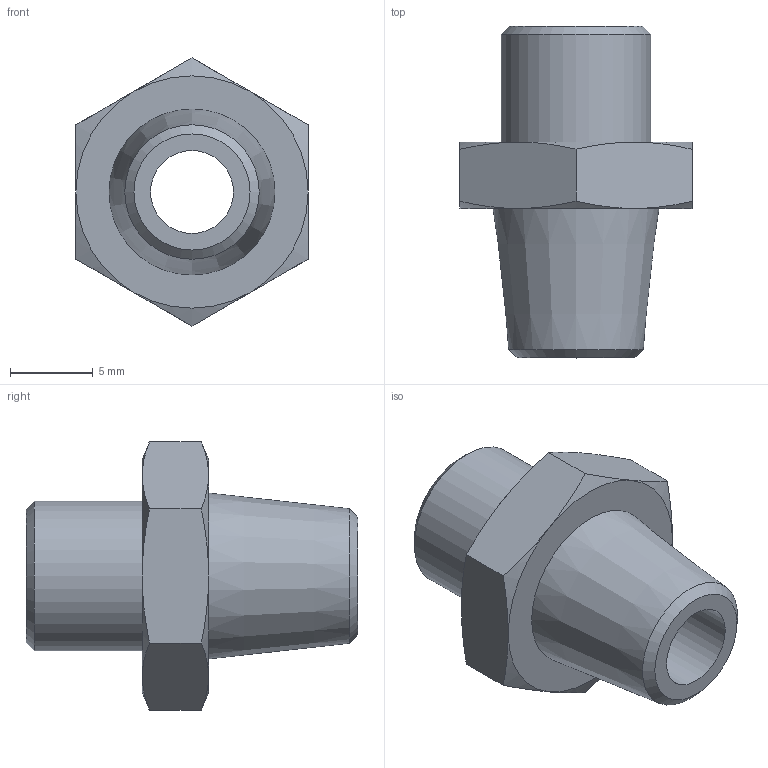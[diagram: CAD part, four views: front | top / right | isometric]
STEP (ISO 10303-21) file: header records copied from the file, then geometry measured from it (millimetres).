
FILE_DESCRIPTION(/* description */ (''),/* implementation_level */ '2;1');
FILE_NAME(/* name */ 'BXH81 B1N1 00.stp',/* time_stamp */ '2024-12-18T18:14:41+01:00',/* author */ ('freju'),/* organization */ (''),/* preprocessor_version */ 'ST-DEVELOPER v20',/* originating_system */ 'Autodesk Inventor 2025',/* authorisation */ '');
FILE_SCHEMA (('AUTOMOTIVE_DESIGN { 1 0 10303 214 3 1 1 }'));
Length unit declared in the file: millimetre
Products named in the file (1): BXH81 B1N1 00
Bounding box: 14 x 20 x 16.17 mm (x, y, z)
Volume: 1296 mm3; surface area: 1206.7 mm2
Topology: 1 solids, 1 shells, 27 faces, 57 edges, 34 vertices
Faces by surface type: cone 15, plane 10, cylinder 2
Full cylindrical faces by diameter (mm): 5 x1, 9 x1
Entity records: 740 total; most frequent: CARTESIAN_POINT 167, ORIENTED_EDGE 114, DIRECTION 111, EDGE_CURVE 57, AXIS2_PLACEMENT_3D 50, VERTEX_POINT 34, EDGE_LOOP 31, FACE_OUTER_BOUND 27
